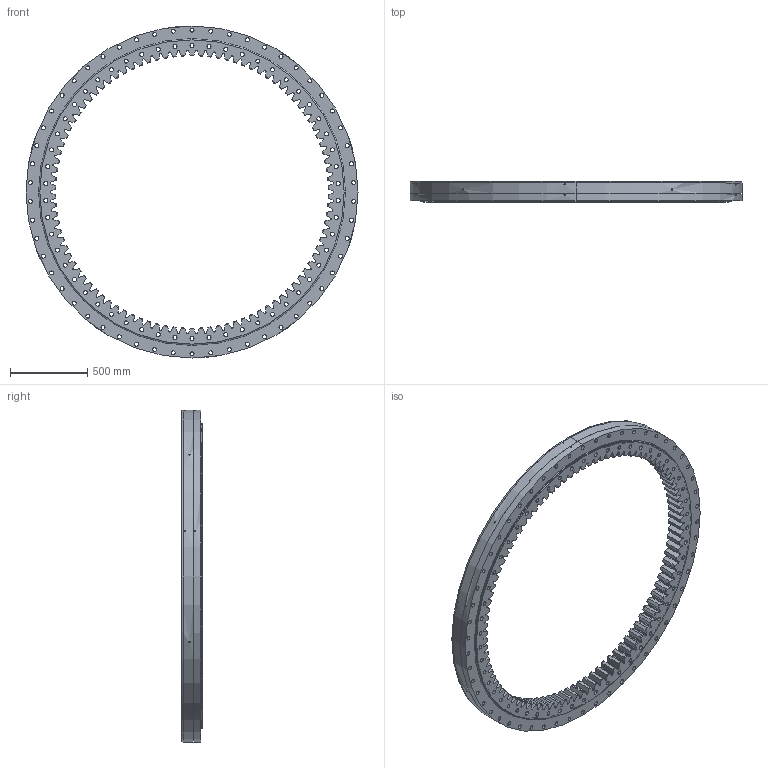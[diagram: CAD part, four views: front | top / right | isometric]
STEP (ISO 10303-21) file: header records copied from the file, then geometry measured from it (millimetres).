
FILE_DESCRIPTION (( 'STEP AP214' ), '1' );
FILE_NAME ('SM3320-1-2147AA.STEP', '2022-11-24T07:49:07', ( '' ), ( '' ), 'SwSTEP 2.0', 'SolidWorks 2020', '' );
FILE_SCHEMA (( 'AUTOMOTIVE_DESIGN' ));
Length unit declared in the file: millimetre
Products named in the file (1): SM3320-1-2147AA
Bounding box: 2147 x 135 x 2147 mm (x, y, z)
Volume: 121096243.7 mm3; surface area: 8900863.9 mm2
Topology: 6 solids, 6 shells, 1299 faces, 3748 edges, 2470 vertices
Faces by surface type: cylinder 729, plane 330, cone 240
Entity records: 45882 total; most frequent: CARTESIAN_POINT 10406, DIRECTION 7489, ORIENTED_EDGE 7436, EDGE_CURVE 3718, AXIS2_PLACEMENT_3D 2917, VERTEX_POINT 2470, EDGE_LOOP 1686, VECTOR 1655
